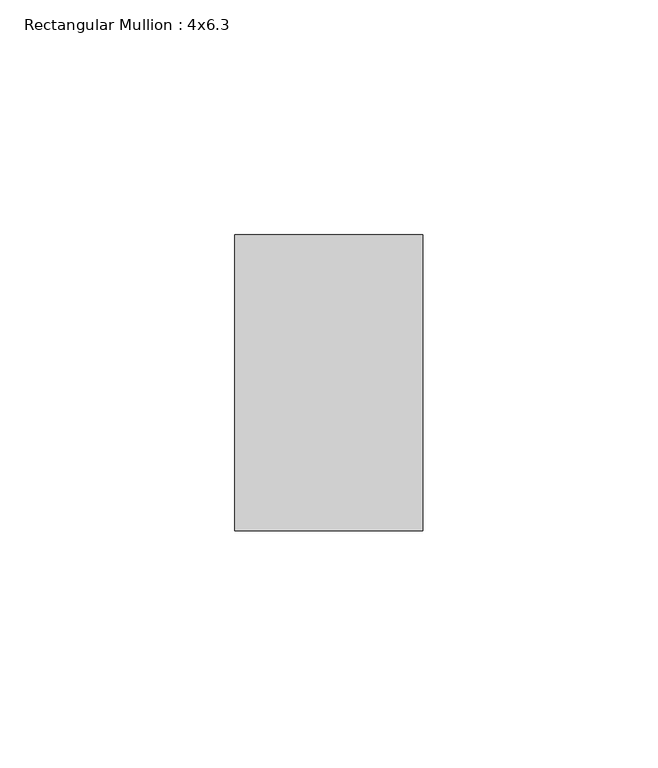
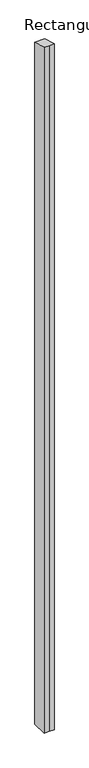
"""IFC4 building model written with IfcOpenShell, lengths in millimetres: member geometry, Rectangular Mullion : 4x6.3."""

from ifc_helpers import new_model, si_unit, origin, place, context, project, spatial, faceted_brep, source, transform, mapped, element, save


def rectangular_mullion_4x6_3_ed606fe1(model_context):
    return source(origin(), model_context, "Body", "Brep", [
        faceted_brep([(-20.0, 20.0, -2903.2384287), (-20.0, 83.0, -2903.2384287), (20.0, 83.0, -2903.2384287), (20.0, 20.0, -2903.2384287), (0.0, 20.0, -2903.2384287), (0.0, 20.0, -5.4283368), (-20.0, 20.0, -5.4283368), (20.0, 20.0, -5.4283368), (20.0, 83.0, -22.5275978), (-20.0, 83.0, -22.5275978)], [[[0, 1, 2, 3, 4]], [[5, 6, 0, 4]], [[7, 5, 4, 3]], [[8, 7, 3, 2]], [[9, 8, 2, 1]], [[6, 9, 1, 0]], [[6, 5, 7, 8, 9]]]),
    ])


if __name__ == "__main__":
    model = new_model("IFC4")
    model_context = context("Model", 3, world=origin())
    ifc_project = project(units=[si_unit("LENGTHUNIT", "METRE", prefix="MILLI")], contexts=[model_context])
    site = spatial("IfcSite", under=ifc_project)
    building = spatial("IfcBuilding", under=site)
    placement = place(None, origin())
    rectangular_mullion_4x6_3_shape = rectangular_mullion_4x6_3_ed606fe1(model_context)
    element("IfcMember", 1, ObjectType="Rectangular Mullion : 4x6.3", at=placement, inside=building, context=model_context, shape_type="MappedRepresentation", body=[
        mapped(rectangular_mullion_4x6_3_shape, transform((0.0, 0.0, 0.0), x_axis=(1.0, 0.0, 0.0), y_axis=(0.0, 1.0, 0.0), z_axis=(0.0, 0.0, 1.0))),
    ])
    save(model, "model.ifc")
